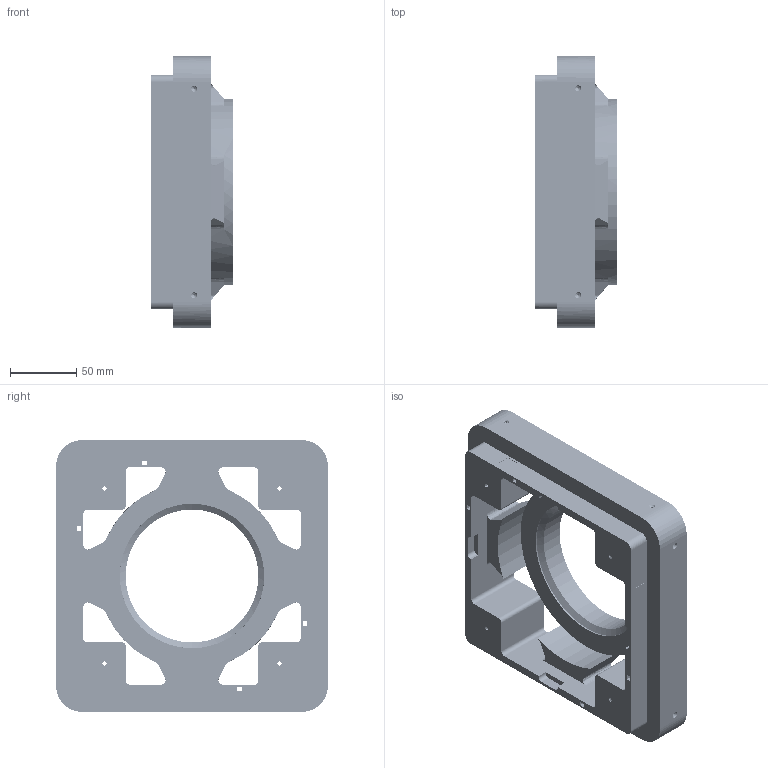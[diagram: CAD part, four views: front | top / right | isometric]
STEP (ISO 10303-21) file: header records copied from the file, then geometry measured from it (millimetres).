
FILE_DESCRIPTION (( 'STEP AP214' ), '1' );
FILE_NAME ('ahmouth10_20261009_end_xm.STEP', '2026-10-14T06:07:32', ( '' ), ( '' ), 'SwSTEP 2.0', 'SolidWorks 2024', '' );
FILE_SCHEMA (( 'AUTOMOTIVE_DESIGN' ));
Products named in the file (1): ahmouth10_20261009_end_xm
Bounding box: 62.1 x 205 x 205 mm (x, y, z)
Volume: 802435.3 mm3; surface area: 161676.4 mm2
Topology: 1 solids, 1 shells, 1130 faces, 3291 edges, 2156 vertices
Faces by surface type: bspline 1130
Entity records: 102223 total; most frequent: CARTESIAN_POINT 85016, ORIENTED_EDGE 6550, EDGE_CURVE 3275, VERTEX_POINT 2156, B_SPLINE_CURVE_WITH_KNOTS 1605, EDGE_LOOP 1165, ADVANCED_FACE 1130, FACE_OUTER_BOUND 1130
